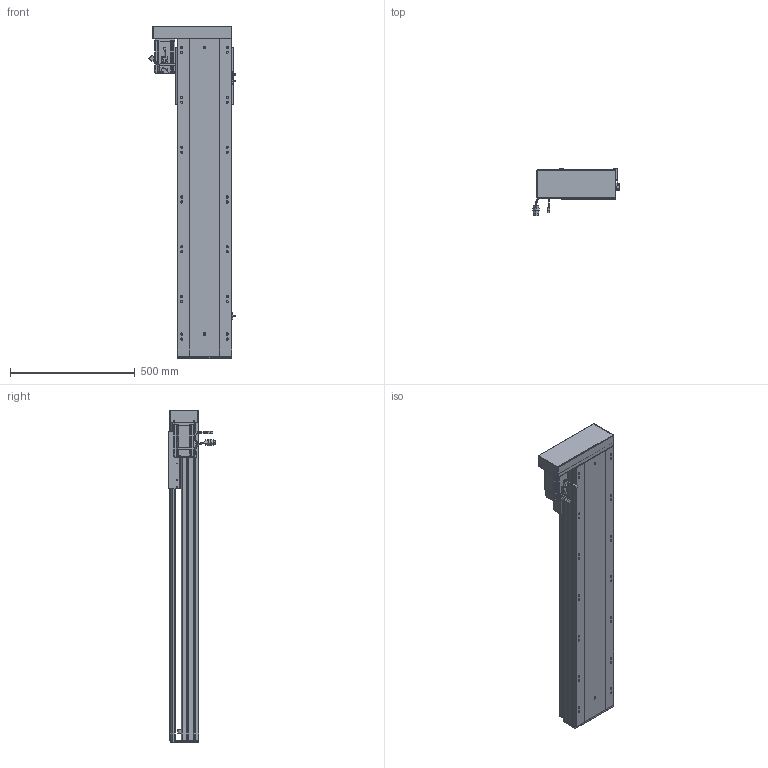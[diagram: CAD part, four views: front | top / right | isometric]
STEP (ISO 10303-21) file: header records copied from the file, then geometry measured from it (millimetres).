
FILE_DESCRIPTION (( 'STEP AP203' ), '1' );
FILE_NAME ('RY220-L2525-300-LK.SLDASM_950.step', '2022-07-04T01:46:55', ( '' ), ( '' ), 'SwSTEP 2.0', 'SolidWorks 2016', '' );
FILE_SCHEMA (( 'CONFIG_CONTROL_DESIGN' ));
Length unit declared in the file: millimetre
Products named in the file (12): RY220左右折电机安装板; 怢湛750W_ECMA-CX0807ES; RY220-L2525-300-LK.SLDASM_950; 滅袉蝶18-15; RY220綴裔啣; 覜茼ん672; RY220-300-蛌殏奻裔啣_950; RY220酘衵殏萇儂欶; RY220-俋离672覜茼んえ; 滅袉蝶18-10; RY220蛌殏菁釱-300_950; RY220半封闭25-32螺母铝滑块
Assembly tree (15 placements, depth 2):
  RY220-L2525-300-LK.SLDASM_950
    RY220蛌殏菁釱-300_950
    RY220-300-蛌殏奻裔啣_950
    怢湛750W_ECMA-CX0807ES
    滅袉蝶18-10  x2
    RY220-俋离672覜茼んえ
    覜茼ん672  x3
    RY220綴裔啣
    RY220半封闭25-32螺母铝滑块
    滅袉蝶18-15  x2
    RY220左右折电机安装板
    RY220酘衵殏萇儂欶
Bounding box: 347.44 x 189.27 x 1332 mm (x, y, z)
Volume: 11237983.6 mm3; surface area: 3271413.9 mm2
Topology: 16 solids, 16 shells, 2131 faces, 5880 edges, 3725 vertices
Faces by surface type: cylinder 955, plane 896, cone 210, bspline 44, sphere 16, torus 10
Entity records: 70397 total; most frequent: CARTESIAN_POINT 20503, ORIENTED_EDGE 10368, DIRECTION 9716, EDGE_CURVE 5184, AXIS2_PLACEMENT_3D 3405, VERTEX_POINT 3381, VECTOR 2906, LINE 2906
